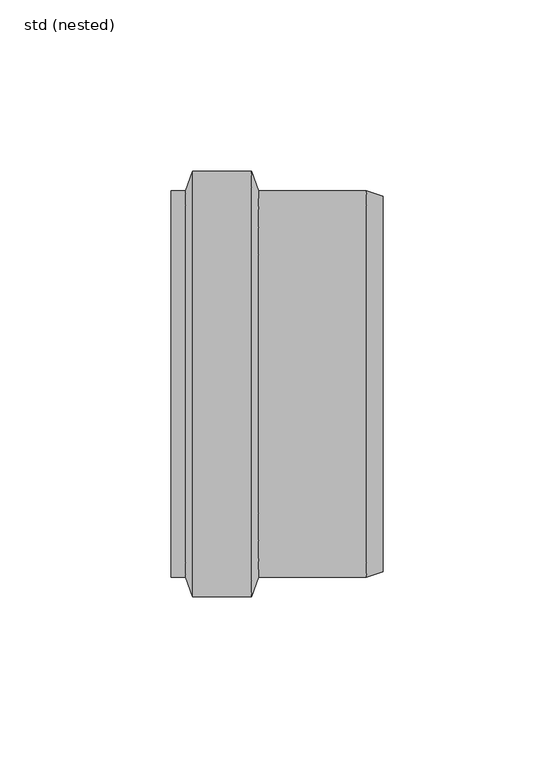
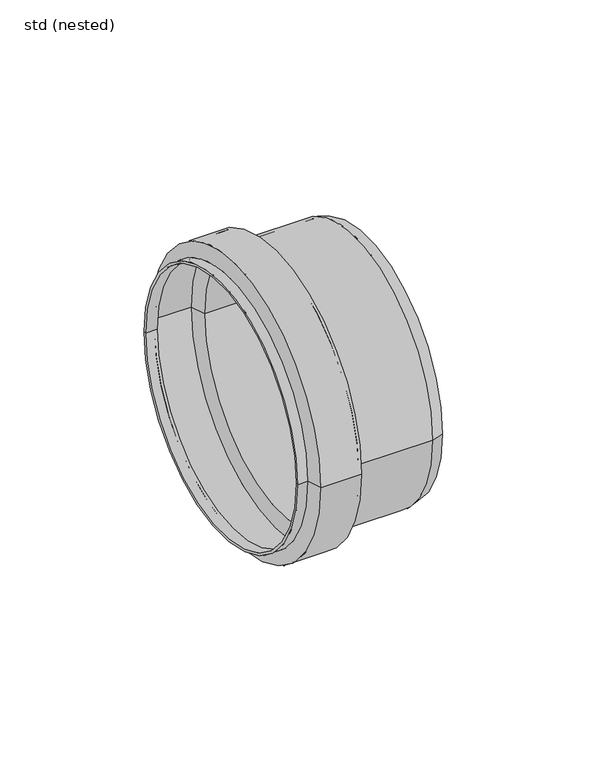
"""IFC4 building model written with IfcOpenShell, lengths in millimetres: pipe fitting geometry, ZZZ_do not use_PIF_ST_UN_ACO pipe socket_ACO : std (nested)."""

from ifc_helpers import new_model, si_unit, frame, origin, place, context, project, spatial, polyline, circle_curve, source, transform, mapped, element, save
from ifc_brep_helpers import plane_surface, cylinder_surface, revolved_surface, advanced_brep


def std_nested_b4e13f09(model_context):
    return source(origin(), model_context, "Body", "AdvancedBrep", [
        advanced_brep(
        [(-49.8, -61.5, 0.0), (-49.8, 61.5, 0.0), (-52.0, 55.5, 0.0), (-52.0, -55.5, 0.0), (-34.2, -61.5, 0.0), (-34.2, 61.5, 0.0), (-32.0, -55.5, 0.0), (-32.0, 55.5, 0.0), (0.0, -55.5, 0.0), (0.0, 55.5, 0.0), (4.8, -54.0, 0.0), (4.8, 54.0, 0.0), (5.098275, -54.95448, 0.0), (5.098275, 54.95448, 0.0), (0.1526109, -56.5, 0.0), (0.1526109, 56.5, 0.0), (-31.3015636, -56.5, 0.0), (-31.3015636, 56.5, 0.0), (-33.4079853, -62.2447864, 0.0), (-33.4079853, 62.2447864, 0.0), (-50.5920147, -62.2447864, 0.0), (-50.5920147, 62.2447864, 0.0), (-52.6984364, -56.5, 0.0), (-52.6984364, 56.5, 0.0), (-57.0, -56.5, 0.0), (-57.0, 56.5, 0.0), (-57.0, -55.5, 0.0), (-57.0, 55.5, 0.0)],
        [
            (0, 1, circle_curve(frame((-49.8, 0.0, 0.0), z_axis=(1.0, 0.0, 0.0), x_axis=(0.0, 1.0, 0.0)), 61.5)),
            (1, 2),
            (2, 3, circle_curve(frame((-52.0, 0.0, 0.0), z_axis=(-1.0, 0.0, 0.0), x_axis=(0.0, 1.0, 0.0)), 55.5)),
            (3, 0),
            (1, 0, circle_curve(frame((-49.8, 0.0, 0.0), z_axis=(1.0, 0.0, 0.0), x_axis=(0.0, 1.0, 0.0)), 61.5)),
            (3, 2, circle_curve(frame((-52.0, 0.0, 0.0), z_axis=(-1.0, 0.0, 0.0), x_axis=(0.0, 1.0, 0.0)), 55.5)),
            (4, 5, circle_curve(frame((-34.2, 0.0, 0.0), z_axis=(1.0, 0.0, 0.0), x_axis=(0.0, 1.0, 0.0)), 61.5)),
            (5, 1),
            (0, 4),
            (5, 4, circle_curve(frame((-34.2, 0.0, 0.0), z_axis=(1.0, 0.0, 0.0), x_axis=(0.0, 1.0, 0.0)), 61.5)),
            (6, 7, circle_curve(frame((-32.0, 0.0, 0.0), z_axis=(1.0, 0.0, 0.0), x_axis=(0.0, 1.0, 0.0)), 55.5)),
            (7, 5),
            (4, 6),
            (7, 6, circle_curve(frame((-32.0, 0.0, 0.0), z_axis=(1.0, 0.0, 0.0), x_axis=(0.0, 1.0, 0.0)), 55.5)),
            (8, 9, circle_curve(frame((0.0, 0.0, 0.0), z_axis=(1.0, 0.0, 0.0), x_axis=(0.0, 1.0, 0.0)), 55.5)),
            (9, 7),
            (6, 8),
            (9, 8, circle_curve(frame((0.0, 0.0, 0.0), z_axis=(1.0, 0.0, 0.0), x_axis=(0.0, 1.0, 0.0)), 55.5)),
            (10, 11, circle_curve(frame((4.8, 0.0, 0.0), z_axis=(1.0, 0.0, 0.0), x_axis=(0.0, 1.0, 0.0)), 54.0)),
            (11, 9),
            (8, 10),
            (11, 10, circle_curve(frame((4.8, 0.0, 0.0), z_axis=(1.0, 0.0, 0.0), x_axis=(0.0, 1.0, 0.0)), 54.0)),
            (12, 13, circle_curve(frame((5.098275, 0.0, 0.0), z_axis=(1.0, 0.0, 0.0), x_axis=(0.0, 1.0, 0.0)), 54.95448)),
            (13, 11),
            (10, 12),
            (13, 12, circle_curve(frame((5.098275, 0.0, 0.0), z_axis=(1.0, 0.0, 0.0), x_axis=(0.0, 1.0, 0.0)), 54.95448)),
            (14, 15, circle_curve(frame((0.1526109, 0.0, 0.0), z_axis=(1.0, 0.0, 0.0), x_axis=(0.0, 1.0, 0.0)), 56.5)),
            (15, 13),
            (12, 14),
            (15, 14, circle_curve(frame((0.1526109, 0.0, 0.0), z_axis=(1.0, 0.0, 0.0), x_axis=(0.0, 1.0, 0.0)), 56.5)),
            (16, 17, circle_curve(frame((-31.3015636, 0.0, 0.0), z_axis=(1.0, 0.0, 0.0), x_axis=(0.0, 1.0, 0.0)), 56.5)),
            (17, 15),
            (14, 16),
            (17, 16, circle_curve(frame((-31.3015636, 0.0, 0.0), z_axis=(1.0, 0.0, 0.0), x_axis=(0.0, 1.0, 0.0)), 56.5)),
            (18, 19, circle_curve(frame((-33.4079853, 0.0, 0.0), z_axis=(1.0, 0.0, 0.0), x_axis=(0.0, 1.0, 0.0)), 62.2447864)),
            (19, 17),
            (16, 18),
            (19, 18, circle_curve(frame((-33.4079853, 0.0, 0.0), z_axis=(1.0, 0.0, 0.0), x_axis=(0.0, 1.0, 0.0)), 62.2447864)),
            (20, 21, circle_curve(frame((-50.5920147, 0.0, 0.0), z_axis=(1.0, 0.0, 0.0), x_axis=(0.0, 1.0, 0.0)), 62.2447864)),
            (21, 19),
            (18, 20),
            (21, 20, circle_curve(frame((-50.5920147, 0.0, 0.0), z_axis=(1.0, 0.0, 0.0), x_axis=(0.0, 1.0, 0.0)), 62.2447864)),
            (22, 23, circle_curve(frame((-52.6984364, 0.0, 0.0), z_axis=(1.0, 0.0, 0.0), x_axis=(0.0, 1.0, 0.0)), 56.5)),
            (23, 21),
            (20, 22),
            (23, 22, circle_curve(frame((-52.6984364, 0.0, 0.0), z_axis=(1.0, 0.0, 0.0), x_axis=(0.0, 1.0, 0.0)), 56.5)),
            (24, 25, circle_curve(frame((-57.0, 0.0, 0.0), z_axis=(1.0, 0.0, 0.0), x_axis=(0.0, 1.0, 0.0)), 56.5)),
            (25, 23),
            (22, 24),
            (25, 24, circle_curve(frame((-57.0, 0.0, 0.0), z_axis=(1.0, 0.0, 0.0), x_axis=(0.0, 1.0, 0.0)), 56.5)),
            (26, 27, circle_curve(frame((-57.0, 0.0, 0.0), z_axis=(1.0, 0.0, 0.0), x_axis=(0.0, 1.0, 0.0)), 55.5)),
            (27, 25),
            (24, 26),
            (27, 26, circle_curve(frame((-57.0, 0.0, 0.0), z_axis=(1.0, 0.0, 0.0), x_axis=(0.0, 1.0, 0.0)), 55.5)),
            (2, 27),
            (26, 3),
        ],
        [
            revolved_surface(polyline([(-52.0, 55.5, 0.0), (-49.8, 61.5, 0.0)]), (-54.2050583, 0.0, 0.0), (-1.0, 0.0, 0.0)),
            revolved_surface(polyline([(-49.8, 61.5, 0.0), (-34.2, 61.5, 0.0)]), (-54.2050583, 0.0, 0.0), (-1.0, 0.0, 0.0)),
            revolved_surface(polyline([(-34.2, 61.5, 0.0), (-32.0, 55.5, 0.0)]), (-54.2050583, 0.0, 0.0), (-1.0, 0.0, 0.0)),
            revolved_surface(polyline([(-32.0, 55.5, 0.0), (0.0, 55.5, 0.0)]), (-54.2050583, 0.0, 0.0), (-1.0, 0.0, 0.0)),
            revolved_surface(polyline([(0.0, 55.5, 0.0), (4.8, 54.0, 0.0)]), (-54.2050583, 0.0, 0.0), (-1.0, 0.0, 0.0)),
            revolved_surface(polyline([(4.8, 54.0, 0.0), (5.098275, 54.95448, 0.0)]), (-54.2050583, 0.0, 0.0), (-1.0, 0.0, 0.0)),
            revolved_surface(polyline([(5.098275, 54.95448, 0.0), (0.1526109, 56.5, 0.0)]), (-54.2050583, 0.0, 0.0), (-1.0, 0.0, 0.0)),
            cylinder_surface(frame((-54.2050583, 0.0, 0.0), z_axis=(-1.0, 0.0, 0.0), x_axis=(0.0, 1.0, 0.0)), 56.5),
            revolved_surface(polyline([(-31.3015636, 56.5, 0.0), (-33.4079853, 62.2447864, 0.0)]), (-54.2050583, 0.0, 0.0), (-1.0, 0.0, 0.0)),
            cylinder_surface(frame((-54.2050583, 0.0, 0.0), z_axis=(-1.0, 0.0, 0.0), x_axis=(0.0, 1.0, 0.0)), 62.2447864),
            revolved_surface(polyline([(-50.5920147, 62.2447864, 0.0), (-52.6984364, 56.5, 0.0)]), (-54.2050583, 0.0, 0.0), (-1.0, 0.0, 0.0)),
            plane_surface(frame((-57.0, 0.0, 0.0), z_axis=(-1.0, 0.0, 0.0), x_axis=(0.0, 1.0, 0.0))),
            revolved_surface(polyline([(-57.0, 55.5, 0.0), (-52.0, 55.5, 0.0)]), (-54.2050583, 0.0, 0.0), (-1.0, 0.0, 0.0)),
        ],
        [
            (0, [[1, 2, 3, 4]]),
            (0, [[5, -4, 6, -2]]),
            (1, [[7, 8, -1, 9]]),
            (1, [[10, -9, -5, -8]]),
            (2, [[11, 12, -7, 13]]),
            (2, [[14, -13, -10, -12]]),
            (3, [[15, 16, -11, 17]]),
            (3, [[18, -17, -14, -16]]),
            (4, [[19, 20, -15, 21]]),
            (4, [[22, -21, -18, -20]]),
            (5, [[23, 24, -19, 25]]),
            (5, [[26, -25, -22, -24]]),
            (6, [[27, 28, -23, 29]]),
            (6, [[30, -29, -26, -28]]),
            (7, [[31, 32, -27, 33]]),
            (7, [[34, -33, -30, -32]]),
            (8, [[35, 36, -31, 37]]),
            (8, [[38, -37, -34, -36]]),
            (9, [[39, 40, -35, 41]]),
            (9, [[42, -41, -38, -40]]),
            (10, [[43, 44, -39, 45]]),
            (10, [[46, -45, -42, -44]]),
            (7, [[47, 48, -43, 49]]),
            (7, [[50, -49, -46, -48]]),
            (11, [[51, 52, -47, 53]]),
            (11, [[54, -53, -50, -52]]),
            (12, [[-3, 55, -51, 56]]),
            (12, [[-6, -56, -54, -55]]),
        ],
    ),
    ])


if __name__ == "__main__":
    model = new_model("IFC4")
    model_context = context("Model", 3, world=origin())
    ifc_project = project(units=[si_unit("LENGTHUNIT", "METRE", prefix="MILLI")], contexts=[model_context])
    site = spatial("IfcSite", under=ifc_project)
    building = spatial("IfcBuilding", under=site)
    placement = place(None, origin())
    std_nested_shape = std_nested_b4e13f09(model_context)
    element("IfcPipeFitting", 1, ObjectType="ZZZ_do not use_PIF_ST_UN_ACO pipe socket_ACO : std (nested)", at=placement, inside=building, context=model_context, shape_type="MappedRepresentation", body=[
        mapped(std_nested_shape, transform((0.0, 0.0, 0.0), x_axis=(1.0, 0.0, 0.0), y_axis=(0.0, 1.0, 0.0), z_axis=(0.0, 0.0, 1.0))),
    ])
    save(model, "model.ifc")
